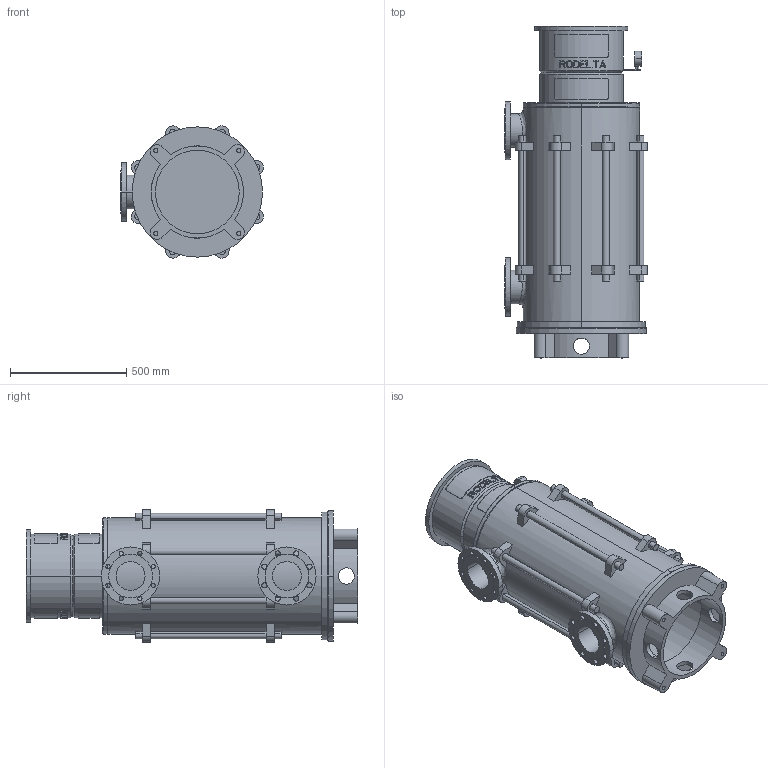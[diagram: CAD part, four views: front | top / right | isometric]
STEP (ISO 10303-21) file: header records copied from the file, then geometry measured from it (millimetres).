
FILE_DESCRIPTION((''),'2;1');
FILE_NAME('LS5_5TR_0GR_TOT_30KW','2023-08-08T',('Lyritlocal'),(''),'PRO/ENGINEER BY PARAMETRIC TECHNOLOGY CORPORATION, 2016360','PRO/ENGINEER BY PARAMETRIC TECHNOLOGY CORPORATION, 2016360','');
FILE_SCHEMA(('CONFIG_CONTROL_DESIGN'));
Length unit declared in the file: millimetre
Products named in the file (1): LS5_5TR_0GR_TOT_30KW
Bounding box: 614.04 x 1426 x 568.08 mm (x, y, z)
Volume: 40130375.4 mm3; surface area: 5860043 mm2
Topology: 3 solids, 7 shells, 672 faces, 1747 edges, 1158 vertices
Faces by surface type: plane 414, cylinder 242, cone 12, bspline 4
Entity records: 22107 total; most frequent: CARTESIAN_POINT 5663, ORIENTED_EDGE 3478, DIRECTION 3269, EDGE_CURVE 1747, AXIS2_PLACEMENT_3D 1241, VERTEX_POINT 1158, EDGE_LOOP 809, VECTOR 787
